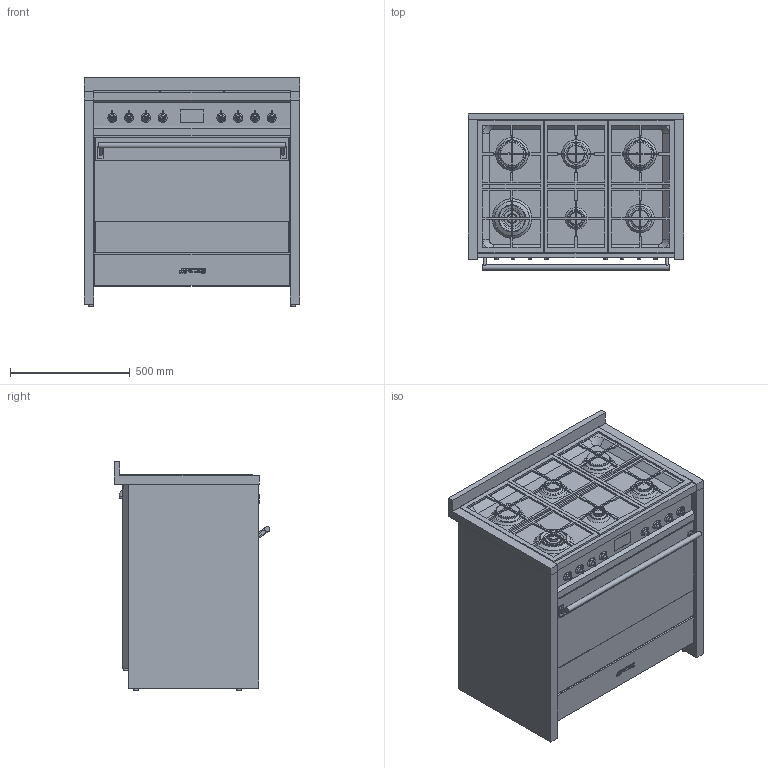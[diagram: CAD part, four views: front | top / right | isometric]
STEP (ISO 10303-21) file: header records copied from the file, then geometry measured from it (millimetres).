
FILE_DESCRIPTION(/* description */ (''),/* implementation_level */ '2;1');
FILE_NAME(/* name */ 'A1-9.stp',/* time_stamp */ '2017-10-17T15:28:54+02:00',/* author */ (''),/* organization */ (''),/* preprocessor_version */ 'ST-DEVELOPER v16',/* originating_system */ 'SIEMENS PLM Software NX 11.0',/* authorisation */ '');
FILE_SCHEMA (('AUTOMOTIVE_DESIGN { 1 0 10303 214 3 1 1 1 }'));
Length unit declared in the file: millimetre
Products named in the file (1): gras351C670Fyg6c
Bounding box: 900 x 650.2 x 952.2 mm (x, y, z)
Volume: 387208795.9 mm3; surface area: 9408068.1 mm2
Topology: 53 solids, 53 shells, 769 faces, 1871 edges, 1231 vertices
Faces by surface type: plane 545, cylinder 154, cone 35, torus 18, extrusion 11, bspline 6
Full cylindrical faces by diameter (mm): 5 x10, 7 x12, 9.6 x6, 10 x2, 15 x8, 17 x8, 20 x15, 22 x1, 37 x1, 43 x1, 46 x1, 55 x1, 65.3 x1, 66 x1, 67 x2, 71.4 x1, 75 x2, 84.934 x1, 85.5 x2, 90 x2, 100 x2, 108.8 x1, 110.5 x2, 113 x1, 113.323 x1, 144.5 x1
Entity records: 22238 total; most frequent: CARTESIAN_POINT 4177, DIRECTION 3571, ORIENTED_EDGE 3392, EDGE_CURVE 1696, VECTOR 1287, LINE 1276, VERTEX_POINT 1206, AXIS2_PLACEMENT_3D 1142
